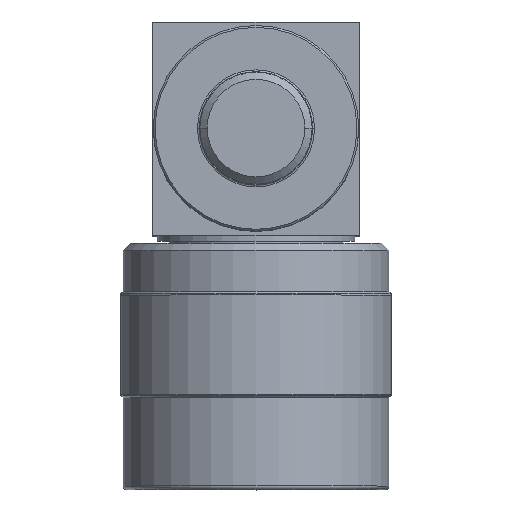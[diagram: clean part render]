
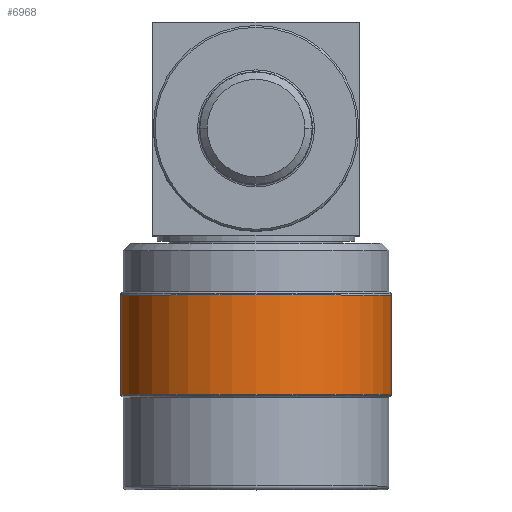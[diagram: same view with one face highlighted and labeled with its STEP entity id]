
A CAD part, top view. The second image highlights one B-rep face of the part: STEP entity #6968.
In plain terms, the highlighted cylindrical face has radius 9.36 mm (diameter 18.72 mm), a partial arc.
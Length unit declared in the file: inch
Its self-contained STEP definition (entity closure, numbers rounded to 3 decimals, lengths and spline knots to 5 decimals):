
#72=CARTESIAN_POINT('',(0.,0.16393,0.));
#73=DIRECTION('',(0.,-1.,0.));
#74=DIRECTION('',(1.,0.,0.));
#75=AXIS2_PLACEMENT_3D('',#72,#73,#74);
#95=CARTESIAN_POINT('',(0.,-0.10593,0.));
#96=DIRECTION('',(0.,1.,0.));
#97=DIRECTION('',(-1.,0.,0.));
#98=AXIS2_PLACEMENT_3D('',#95,#96,#97);
#125=DIRECTION('',(0.,1.,0.));
#126=VECTOR('',#125,0.26986);
#127=CARTESIAN_POINT('',(0.3685,-0.10593,
0.));
#128=LINE('',#127,#126);
#129=DIRECTION('',(0.,-1.,0.));
#130=VECTOR('',#129,0.26986);
#131=CARTESIAN_POINT('',(-0.3685,0.16393,
0.));
#132=LINE('',#131,#130);
#5535=CARTESIAN_POINT('',(-0.3685,0.16393,
0.));
#5536=VERTEX_POINT('',#5535);
#5537=CARTESIAN_POINT('',(0.3685,0.16393,0.));
#5538=VERTEX_POINT('',#5537);
#5539=CARTESIAN_POINT('',(-0.3685,-0.10593,
0.));
#5540=CARTESIAN_POINT('',(0.3685,-0.10593,0.));
#5541=VERTEX_POINT('',#5539);
#5542=VERTEX_POINT('',#5540);
#6954=CARTESIAN_POINT('',(0.,-0.11133,0.));
#6955=DIRECTION('',(0.,1.,0.));
#6956=DIRECTION('',(1.,0.,0.));
#6957=AXIS2_PLACEMENT_3D('',#6954,#6955,#6956);
#6958=CYLINDRICAL_SURFACE('',#6957,0.3685);
#6960=ORIENTED_EDGE('',*,*,#6959,.F.);
#6962=ORIENTED_EDGE('',*,*,#6961,.F.);
#6963=ORIENTED_EDGE('',*,*,#6936,.F.);
#6965=ORIENTED_EDGE('',*,*,#6964,.F.);
#6966=EDGE_LOOP('',(#6960,#6962,#6963,#6965));
#6967=FACE_OUTER_BOUND('',#6966,.F.);
#6968=ADVANCED_FACE('',(#6967),#6958,.T.);
#76=CIRCLE('',#75,0.3685);
#99=CIRCLE('',#98,0.3685);
#6936=EDGE_CURVE('',#5538,#5536,#76,.T.);
#6959=EDGE_CURVE('',#5541,#5542,#99,.T.);
#6961=EDGE_CURVE('',#5536,#5541,#132,.T.);
#6964=EDGE_CURVE('',#5542,#5538,#128,.T.);
